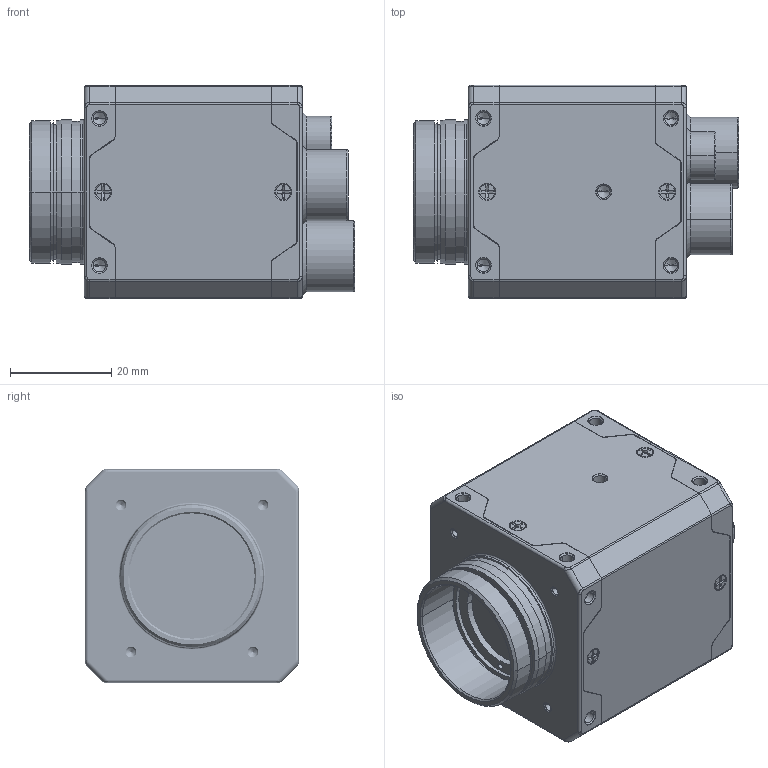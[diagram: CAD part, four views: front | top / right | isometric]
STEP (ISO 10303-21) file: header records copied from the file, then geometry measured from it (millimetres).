
FILE_DESCRIPTION((''),'2;1');
FILE_NAME('00-MV-CT050G-24GMC01-MAX_ASM','2025-10-28T09:45:46',('xujianping6'),(''),'CREO PARAMETRIC BY PTC INC, 2020044','CREO PARAMETRIC BY PTC INC, 2020044','');
FILE_SCHEMA(('CONFIG_CONTROL_DESIGN'));
Products named in the file (23): QIANGAI-NAA-MAX; LVGUANGPIAN; LGP_YABAN; QIANDUANZUJIAN-MAX_ASM; ZHONGKUANG-MAX; ZHONGKUANGZUJIAN-MAX_ASM; HOUGAI-MAX; PCB-MV-23517-REV10; 100600296; SGN-M12-NEW3-20241128; SGN-M8-NEWS5-20241205; MV-23517-REV10_ASM; MV-ZHUBAN-REV10_ASM; BANJINZHIJIA-FPC-ASM_ASM; PCB-MV-JIEKOUBAN-MAX-REV10; CNT-MAX-M12-20241220_ASM; ORING-7D5-1D5; MV-JIEKOUBAN-MAX-REV10_ASM; D-01-35-26-0837; SC-T1M2X4NL-B; HOUGAIZUJIAN-MAX_ASM; DE-19-001087; 00-MV-CT050G-24GMC01-MAX_ASM
Assembly tree (30 placements, depth 5):
  00-MV-CT050G-24GMC01-MAX_ASM
    QIANDUANZUJIAN-MAX_ASM
      QIANGAI-NAA-MAX
      LVGUANGPIAN
      LGP_YABAN
    ZHONGKUANGZUJIAN-MAX_ASM
      ZHONGKUANG-MAX
    HOUGAIZUJIAN-MAX_ASM
      HOUGAI-MAX
      MV-ZHUBAN-REV10_ASM
        MV-23517-REV10_ASM
          PCB-MV-23517-REV10
          100600296
          SGN-M12-NEW3-20241128
          SGN-M8-NEWS5-20241205
      BANJINZHIJIA-FPC-ASM_ASM
      MV-JIEKOUBAN-MAX-REV10_ASM
        PCB-MV-JIEKOUBAN-MAX-REV10
        CNT-MAX-M12-20241220_ASM
        ORING-7D5-1D5
      D-01-35-26-0837
      SC-T1M2X4NL-B  x2
    DE-19-001087  x8
Bounding box: 64.11 x 42 x 42 mm (x, y, z)
Volume: 30471.1 mm3; surface area: 37000.4 mm2
Topology: 22 solids, 99 shells, 3732 faces, 9862 edges, 6361 vertices
Faces by surface type: plane 1613, cylinder 1430, cone 428, torus 105, extrusion 74, bspline 60, sphere 22
Entity records: 117482 total; most frequent: CARTESIAN_POINT 30904, DIRECTION 18621, ORIENTED_EDGE 17694, EDGE_CURVE 8956, AXIS2_PLACEMENT_3D 6983, VERTEX_POINT 5884, VECTOR 4655, LINE 4581
